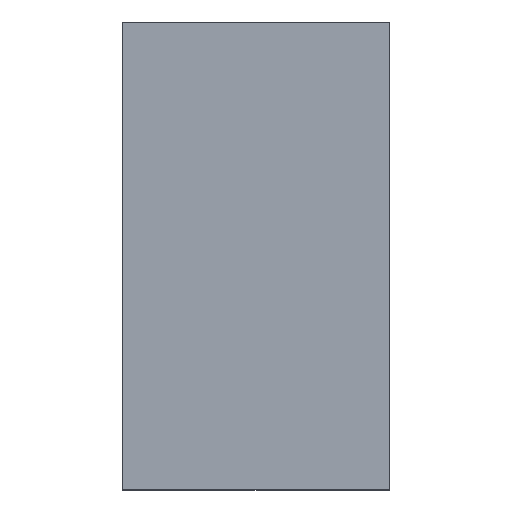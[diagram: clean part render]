
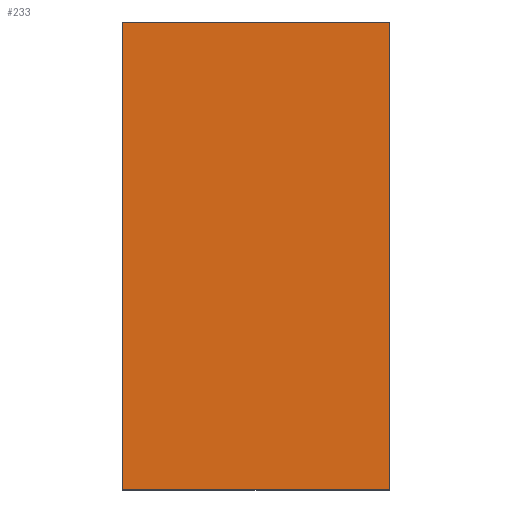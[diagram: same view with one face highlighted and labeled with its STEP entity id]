
A CAD part, top view. The second image highlights one B-rep face of the part: STEP entity #233.
In plain terms, the highlighted planar face has unit normal (0, 0, 1).
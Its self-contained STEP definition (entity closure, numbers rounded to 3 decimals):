
#25=PLANE('',#263);
#37=FACE_OUTER_BOUND('',#49,.T.);
#49=EDGE_LOOP('',(#199,#200,#201,#202));
#71=LINE('',#368,#97);
#78=LINE('',#380,#104);
#79=LINE('',#383,#105);
#80=LINE('',#384,#106);
#97=VECTOR('',#303,10.);
#104=VECTOR('',#314,10.);
#105=VECTOR('',#317,10.);
#106=VECTOR('',#318,10.);
#127=VERTEX_POINT('',#365);
#128=VERTEX_POINT('',#367);
#131=VERTEX_POINT('',#377);
#132=VERTEX_POINT('',#382);
#151=EDGE_CURVE('',#127,#128,#71,.T.);
#158=EDGE_CURVE('',#131,#128,#78,.T.);
#159=EDGE_CURVE('',#132,#131,#79,.T.);
#160=EDGE_CURVE('',#132,#127,#80,.T.);
#199=ORIENTED_EDGE('',*,*,#159,.T.);
#200=ORIENTED_EDGE('',*,*,#158,.T.);
#201=ORIENTED_EDGE('',*,*,#151,.F.);
#202=ORIENTED_EDGE('',*,*,#160,.F.);
#233=ADVANCED_FACE('',(#37),#25,.T.);
#263=AXIS2_PLACEMENT_3D('',#381,#315,#316);
#303=DIRECTION('',(1.,0.,0.));
#314=DIRECTION('',(0.,1.,0.));
#315=DIRECTION('center_axis',(0.,0.,1.));
#316=DIRECTION('ref_axis',(1.,0.,0.));
#317=DIRECTION('',(1.,0.,0.));
#318=DIRECTION('',(0.,1.,0.));
#365=CARTESIAN_POINT('',(-10.,35.,20.));
#367=CARTESIAN_POINT('',(10.,35.,20.));
#368=CARTESIAN_POINT('',(-5.,35.,20.));
#377=CARTESIAN_POINT('',(10.,0.,20.));
#380=CARTESIAN_POINT('',(10.,0.,20.));
#381=CARTESIAN_POINT('Origin',(-10.,0.,20.));
#382=CARTESIAN_POINT('',(-10.,0.,20.));
#383=CARTESIAN_POINT('',(-10.,0.,20.));
#384=CARTESIAN_POINT('',(-10.,0.,20.));
